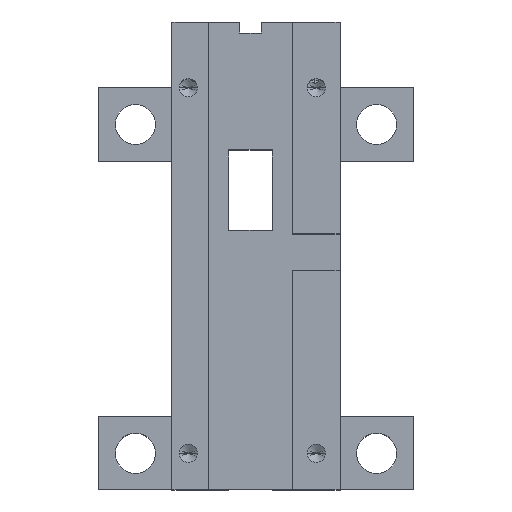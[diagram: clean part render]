
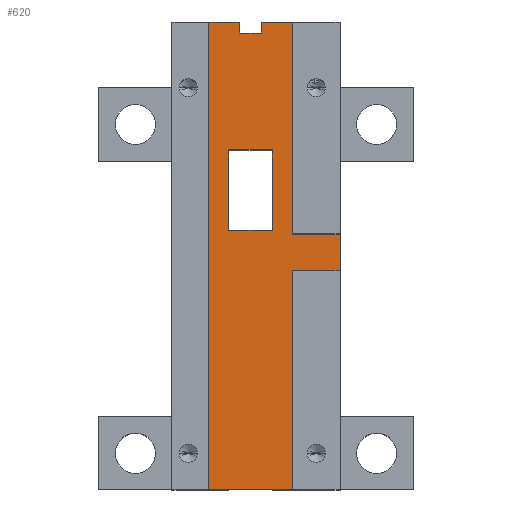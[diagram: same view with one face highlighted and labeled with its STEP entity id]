
A CAD part, top view. The second image highlights one B-rep face of the part: STEP entity #620.
In plain terms, the highlighted planar face has unit normal (0, 0, 1).
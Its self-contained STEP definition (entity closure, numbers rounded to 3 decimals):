
#30 = CARTESIAN_POINT ( 'NONE',  ( -92.138, -21.318, 14.1 ) ) ;
#62 = DIRECTION ( 'NONE',  ( -1., 0., 0. ) ) ;
#75 = VECTOR ( 'NONE', #665, 1000. ) ;
#79 = EDGE_CURVE ( 'NONE', #1760, #1538, #2083, .T. ) ;
#102 = ORIENTED_EDGE ( 'NONE', *, *, #519, .T. ) ;
#110 = AXIS2_PLACEMENT_3D ( 'NONE', #1306, #2026, #3033 ) ;
#117 = EDGE_CURVE ( 'NONE', #2032, #165, #1801, .T. ) ;
#143 = LINE ( 'NONE', #3173, #2309 ) ;
#157 = EDGE_CURVE ( 'NONE', #1538, #2655, #1310, .T. ) ;
#165 = VERTEX_POINT ( 'NONE', #307 ) ;
#218 = DIRECTION ( 'NONE',  ( 0., 1., 0. ) ) ;
#230 = VECTOR ( 'NONE', #2789, 1000. ) ;
#266 = LINE ( 'NONE', #2820, #691 ) ;
#267 = CARTESIAN_POINT ( 'NONE',  ( -93.638, 5.682, 14.1 ) ) ;
#307 = CARTESIAN_POINT ( 'NONE',  ( -92.138, -10.318, 14.1 ) ) ;
#308 = DIRECTION ( 'NONE',  ( 0., 1., 0. ) ) ;
#311 = VECTOR ( 'NONE', #2983, 1000. ) ;
#372 = EDGE_CURVE ( 'NONE', #165, #2583, #2418, .T. ) ;
#394 = CARTESIAN_POINT ( 'NONE',  ( -98.138, -21.318, 14.1 ) ) ;
#407 = ORIENTED_EDGE ( 'NONE', *, *, #79, .T. ) ;
#447 = LINE ( 'NONE', #2972, #3258 ) ;
#519 = EDGE_CURVE ( 'NONE', #2655, #2407, #1423, .T. ) ;
#579 = EDGE_CURVE ( 'NONE', #1341, #2524, #1831, .T. ) ;
#608 = EDGE_CURVE ( 'NONE', #1377, #853, #266, .T. ) ;
#620 = ADVANCED_FACE ( 'NONE', ( #825, #3270 ), #1006, .F. ) ;
#665 = DIRECTION ( 'NONE',  ( -1., 0., 0. ) ) ;
#691 = VECTOR ( 'NONE', #62, 1000. ) ;
#750 = VERTEX_POINT ( 'NONE', #1376 ) ;
#754 = CARTESIAN_POINT ( 'NONE',  ( -100.888, 7.182, 14.1 ) ) ;
#764 = VERTEX_POINT ( 'NONE', #2097 ) ;
#806 = ORIENTED_EDGE ( 'NONE', *, *, #2038, .T. ) ;
#825 = FACE_BOUND ( 'NONE', #2788, .T. ) ;
#852 = LINE ( 'NONE', #1806, #1297 ) ;
#853 = VERTEX_POINT ( 'NONE', #966 ) ;
#900 = ORIENTED_EDGE ( 'NONE', *, *, #2128, .T. ) ;
#947 = LINE ( 'NONE', #1954, #2626 ) ;
#954 = EDGE_CURVE ( 'NONE', #1760, #2814, #852, .T. ) ;
#966 = CARTESIAN_POINT ( 'NONE',  ( -93.638, 7.182, 14.1 ) ) ;
#980 = LINE ( 'NONE', #1771, #2718 ) ;
#1006 = PLANE ( 'NONE',  #110 ) ;
#1007 = CARTESIAN_POINT ( 'NONE',  ( -96.638, 7.182, 14.1 ) ) ;
#1057 = EDGE_CURVE ( 'NONE', #1220, #2032, #1170, .T. ) ;
#1089 = VECTOR ( 'NONE', #2640, 1000. ) ;
#1099 = ORIENTED_EDGE ( 'NONE', *, *, #157, .T. ) ;
#1170 = LINE ( 'NONE', #394, #1089 ) ;
#1220 = VERTEX_POINT ( 'NONE', #1492 ) ;
#1297 = VECTOR ( 'NONE', #2589, 1000. ) ;
#1306 = CARTESIAN_POINT ( 'NONE',  ( -100.888, -26.818, 14.1 ) ) ;
#1310 = LINE ( 'NONE', #2598, #230 ) ;
#1341 = VERTEX_POINT ( 'NONE', #1850 ) ;
#1376 = CARTESIAN_POINT ( 'NONE',  ( -89.388, -21.818, 14.1 ) ) ;
#1377 = VERTEX_POINT ( 'NONE', #2031 ) ;
#1394 = LINE ( 'NONE', #1640, #3147 ) ;
#1423 = LINE ( 'NONE', #1745, #1539 ) ;
#1424 = CARTESIAN_POINT ( 'NONE',  ( -89.388, -56.818, 14.1 ) ) ;
#1440 = EDGE_CURVE ( 'NONE', #2407, #764, #1559, .T. ) ;
#1443 = ORIENTED_EDGE ( 'NONE', *, *, #954, .F. ) ;
#1477 = ORIENTED_EDGE ( 'NONE', *, *, #117, .F. ) ;
#1486 = VECTOR ( 'NONE', #1762, 1000. ) ;
#1492 = CARTESIAN_POINT ( 'NONE',  ( -98.138, -21.318, 14.1 ) ) ;
#1525 = EDGE_CURVE ( 'NONE', #750, #764, #1394, .T. ) ;
#1538 = VERTEX_POINT ( 'NONE', #1424 ) ;
#1539 = VECTOR ( 'NONE', #3189, 1000. ) ;
#1558 = DIRECTION ( 'NONE',  ( 0., 1., 0. ) ) ;
#1559 = LINE ( 'NONE', #2564, #2984 ) ;
#1579 = EDGE_LOOP ( 'NONE', ( #2865, #3262, #3035, #2148, #900, #1443, #407, #1099, #102, #2006, #3168, #806 ) ) ;
#1640 = CARTESIAN_POINT ( 'NONE',  ( -100.888, -21.818, 14.1 ) ) ;
#1645 = VERTEX_POINT ( 'NONE', #1007 ) ;
#1745 = CARTESIAN_POINT ( 'NONE',  ( -100.888, -26.818, 14.1 ) ) ;
#1760 = VERTEX_POINT ( 'NONE', #2867 ) ;
#1762 = DIRECTION ( 'NONE',  ( 1., 0., 0. ) ) ;
#1771 = CARTESIAN_POINT ( 'NONE',  ( -98.138, -21.318, 14.1 ) ) ;
#1801 = LINE ( 'NONE', #30, #3240 ) ;
#1806 = CARTESIAN_POINT ( 'NONE',  ( -100.888, -26.818, 14.1 ) ) ;
#1831 = LINE ( 'NONE', #2315, #1486 ) ;
#1850 = CARTESIAN_POINT ( 'NONE',  ( -96.638, 5.682, 14.1 ) ) ;
#1911 = DIRECTION ( 'NONE',  ( -1., 0., 0. ) ) ;
#1928 = EDGE_CURVE ( 'NONE', #2583, #1220, #980, .T. ) ;
#1954 = CARTESIAN_POINT ( 'NONE',  ( -89.388, -56.818, 14.1 ) ) ;
#2004 = CARTESIAN_POINT ( 'NONE',  ( -93.638, 5.682, 14.1 ) ) ;
#2006 = ORIENTED_EDGE ( 'NONE', *, *, #1440, .T. ) ;
#2026 = DIRECTION ( 'NONE',  ( 0., 0., -1. ) ) ;
#2031 = CARTESIAN_POINT ( 'NONE',  ( -89.388, 7.182, 14.1 ) ) ;
#2032 = VERTEX_POINT ( 'NONE', #3277 ) ;
#2038 = EDGE_CURVE ( 'NONE', #750, #1377, #947, .T. ) ;
#2083 = LINE ( 'NONE', #2807, #2133 ) ;
#2097 = CARTESIAN_POINT ( 'NONE',  ( -82.888, -21.818, 14.1 ) ) ;
#2128 = EDGE_CURVE ( 'NONE', #1645, #2814, #143, .T. ) ;
#2133 = VECTOR ( 'NONE', #2546, 1000. ) ;
#2148 = ORIENTED_EDGE ( 'NONE', *, *, #2286, .F. ) ;
#2236 = DIRECTION ( 'NONE',  ( 0., -1., 0. ) ) ;
#2286 = EDGE_CURVE ( 'NONE', #1645, #1341, #447, .T. ) ;
#2309 = VECTOR ( 'NONE', #1911, 1000. ) ;
#2315 = CARTESIAN_POINT ( 'NONE',  ( -93.638, 5.682, 14.1 ) ) ;
#2407 = VERTEX_POINT ( 'NONE', #3209 ) ;
#2418 = LINE ( 'NONE', #2920, #75 ) ;
#2524 = VERTEX_POINT ( 'NONE', #267 ) ;
#2536 = ORIENTED_EDGE ( 'NONE', *, *, #1928, .F. ) ;
#2546 = DIRECTION ( 'NONE',  ( 1., 0., 0. ) ) ;
#2564 = CARTESIAN_POINT ( 'NONE',  ( -82.888, -26.818, 14.1 ) ) ;
#2565 = EDGE_CURVE ( 'NONE', #2524, #853, #3250, .T. ) ;
#2583 = VERTEX_POINT ( 'NONE', #3267 ) ;
#2589 = DIRECTION ( 'NONE',  ( 0., 1., 0. ) ) ;
#2598 = CARTESIAN_POINT ( 'NONE',  ( -89.388, -56.818, 14.1 ) ) ;
#2626 = VECTOR ( 'NONE', #218, 1000. ) ;
#2640 = DIRECTION ( 'NONE',  ( 1., 0., 0. ) ) ;
#2655 = VERTEX_POINT ( 'NONE', #3017 ) ;
#2660 = ORIENTED_EDGE ( 'NONE', *, *, #372, .F. ) ;
#2663 = DIRECTION ( 'NONE',  ( 1., 0., 0. ) ) ;
#2718 = VECTOR ( 'NONE', #2996, 1000. ) ;
#2788 = EDGE_LOOP ( 'NONE', ( #2869, #2536, #2660, #1477 ) ) ;
#2789 = DIRECTION ( 'NONE',  ( 0., 1., 0. ) ) ;
#2807 = CARTESIAN_POINT ( 'NONE',  ( -100.888, -56.818, 14.1 ) ) ;
#2814 = VERTEX_POINT ( 'NONE', #754 ) ;
#2820 = CARTESIAN_POINT ( 'NONE',  ( -100.888, 7.182, 14.1 ) ) ;
#2865 = ORIENTED_EDGE ( 'NONE', *, *, #608, .T. ) ;
#2867 = CARTESIAN_POINT ( 'NONE',  ( -100.888, -56.818, 14.1 ) ) ;
#2869 = ORIENTED_EDGE ( 'NONE', *, *, #1057, .F. ) ;
#2920 = CARTESIAN_POINT ( 'NONE',  ( -98.138, -10.318, 14.1 ) ) ;
#2972 = CARTESIAN_POINT ( 'NONE',  ( -96.638, 5.682, 14.1 ) ) ;
#2983 = DIRECTION ( 'NONE',  ( 0., 1., 0. ) ) ;
#2984 = VECTOR ( 'NONE', #308, 1000. ) ;
#2996 = DIRECTION ( 'NONE',  ( 0., -1., 0. ) ) ;
#3017 = CARTESIAN_POINT ( 'NONE',  ( -89.388, -26.818, 14.1 ) ) ;
#3033 = DIRECTION ( 'NONE',  ( 0., 1., 0. ) ) ;
#3035 = ORIENTED_EDGE ( 'NONE', *, *, #579, .F. ) ;
#3147 = VECTOR ( 'NONE', #2663, 1000. ) ;
#3168 = ORIENTED_EDGE ( 'NONE', *, *, #1525, .F. ) ;
#3173 = CARTESIAN_POINT ( 'NONE',  ( -100.888, 7.182, 14.1 ) ) ;
#3189 = DIRECTION ( 'NONE',  ( 1., 0., 0. ) ) ;
#3209 = CARTESIAN_POINT ( 'NONE',  ( -82.888, -26.818, 14.1 ) ) ;
#3240 = VECTOR ( 'NONE', #1558, 1000. ) ;
#3250 = LINE ( 'NONE', #2004, #311 ) ;
#3258 = VECTOR ( 'NONE', #2236, 1000. ) ;
#3262 = ORIENTED_EDGE ( 'NONE', *, *, #2565, .F. ) ;
#3267 = CARTESIAN_POINT ( 'NONE',  ( -98.138, -10.318, 14.1 ) ) ;
#3270 = FACE_OUTER_BOUND ( 'NONE', #1579, .T. ) ;
#3277 = CARTESIAN_POINT ( 'NONE',  ( -92.138, -21.318, 14.1 ) ) ;
